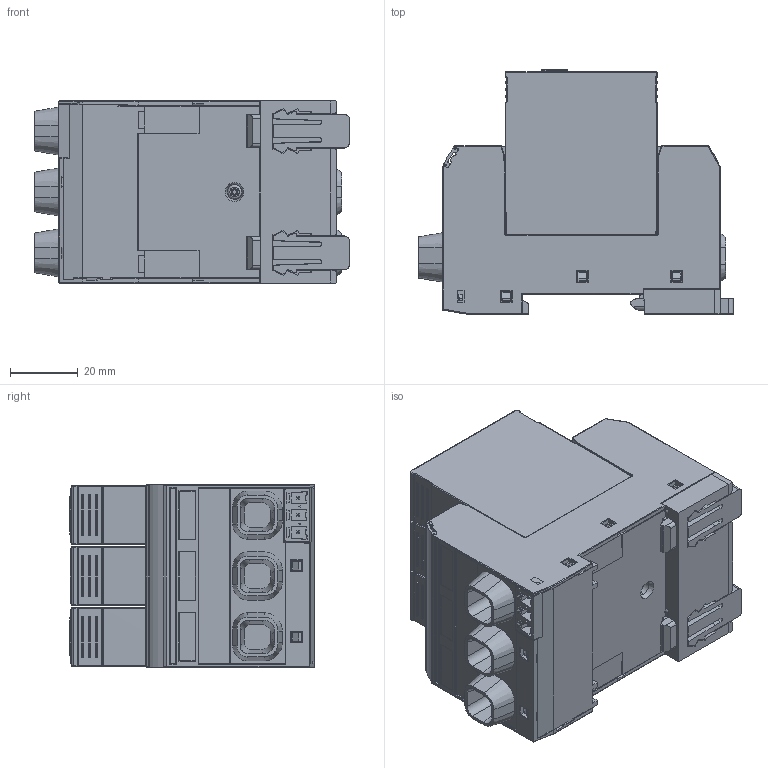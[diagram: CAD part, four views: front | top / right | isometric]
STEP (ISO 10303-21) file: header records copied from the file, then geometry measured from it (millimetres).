
FILE_DESCRIPTION( ( 'Unknown' ), '1' );
FILE_NAME( 'C:/Users/pdellaca/Desktop/Colombo 7P/7P_26_9_000_1015.stp', 'Unknown', ( 'Unknown' ), ( 'Unknown' ), 'PSStep 15.0.49', 'Unknown', ' ' );
FILE_SCHEMA( ( 'AUTOMOTIVE_DESIGN { 1 0 10303 214 1 1 1 1 }' ) );
Length unit declared in the file: millimetre
Products named in the file (38): top; 1
Bounding box: 93.05 x 72.11 x 53.8 mm (x, y, z)
Surface area: 56725.8 mm2 (no closed solid volume)
Topology: 0 solids, 1631 shells, 1631 faces, 8307 edges, 8216 vertices
Faces by surface type: plane 952, cylinder 438, torus 74, cone 57, sphere 48, bspline 40, revolution 18, extrusion 4
Entity records: 96519 total; most frequent: CARTESIAN_POINT 21598, DIRECTION 12816, ORIENTED_EDGE 8208, EDGE_CURVE 8208, VERTEX_POINT 8208, VECTOR 5648, LINE 5644, AXIS2_PLACEMENT_3D 3575
